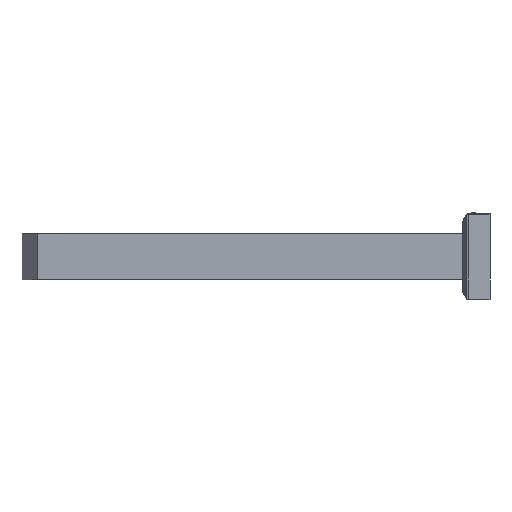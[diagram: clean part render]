
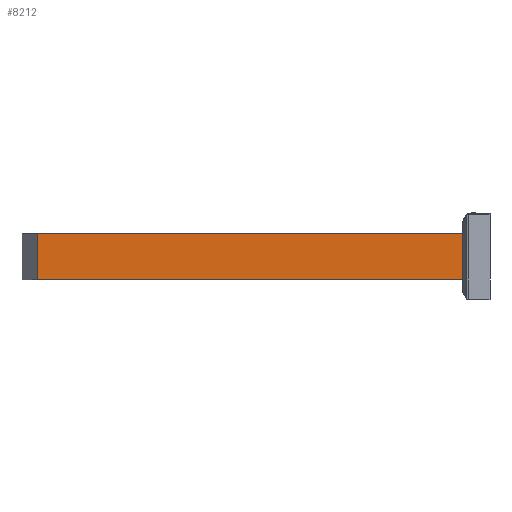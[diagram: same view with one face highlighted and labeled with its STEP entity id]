
A CAD part, left-side view. The second image highlights one B-rep face of the part: STEP entity #8212.
In plain terms, the highlighted planar face has unit normal (-1, 0, 0).
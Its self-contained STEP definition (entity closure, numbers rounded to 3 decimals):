
#438 = VECTOR ( 'NONE', #11556, 1000. ) ;
#573 = EDGE_CURVE ( 'NONE', #10775, #23239, #12261, .T. ) ;
#3342 = CARTESIAN_POINT ( 'NONE',  ( -25., 963.826, 50. ) ) ;
#3413 = ORIENTED_EDGE ( 'NONE', *, *, #21368, .F. ) ;
#4322 = VECTOR ( 'NONE', #32273, 1000. ) ;
#8212 = ADVANCED_FACE ( 'NONE', ( #17175 ), #17010, .T. ) ;
#8305 = EDGE_CURVE ( 'NONE', #10313, #22684, #30075, .T. ) ;
#9335 = EDGE_CURVE ( 'NONE', #22684, #10775, #19734, .T. ) ;
#9758 = CARTESIAN_POINT ( 'NONE',  ( -25., 0., -50. ) ) ;
#10088 = DIRECTION ( 'NONE',  ( 0., 0., 1. ) ) ;
#10313 = VERTEX_POINT ( 'NONE', #19616 ) ;
#10775 = VERTEX_POINT ( 'NONE', #3342 ) ;
#11333 = CARTESIAN_POINT ( 'NONE',  ( -25., 963.826, -50. ) ) ;
#11556 = DIRECTION ( 'NONE',  ( 0., 1., 0. ) ) ;
#12261 = LINE ( 'NONE', #29608, #4322 ) ;
#13309 = VECTOR ( 'NONE', #31218, 1000. ) ;
#13557 = VECTOR ( 'NONE', #10088, 1000. ) ;
#16546 = DIRECTION ( 'NONE',  ( 0., 0., 1. ) ) ;
#17010 = PLANE ( 'NONE',  #21447 ) ;
#17175 = FACE_OUTER_BOUND ( 'NONE', #18869, .T. ) ;
#18479 = LINE ( 'NONE', #28557, #13309 ) ;
#18869 = EDGE_LOOP ( 'NONE', ( #21329, #20568, #3413, #27494 ) ) ;
#19616 = CARTESIAN_POINT ( 'NONE',  ( -25., 0., -50. ) ) ;
#19734 = LINE ( 'NONE', #29982, #438 ) ;
#20568 = ORIENTED_EDGE ( 'NONE', *, *, #573, .T. ) ;
#21329 = ORIENTED_EDGE ( 'NONE', *, *, #9335, .T. ) ;
#21368 = EDGE_CURVE ( 'NONE', #10313, #23239, #18479, .T. ) ;
#21447 = AXIS2_PLACEMENT_3D ( 'NONE', #9758, #32407, #16546 ) ;
#22684 = VERTEX_POINT ( 'NONE', #32365 ) ;
#23239 = VERTEX_POINT ( 'NONE', #11333 ) ;
#27494 = ORIENTED_EDGE ( 'NONE', *, *, #8305, .T. ) ;
#28108 = CARTESIAN_POINT ( 'NONE',  ( -25., 0., -50. ) ) ;
#28557 = CARTESIAN_POINT ( 'NONE',  ( -25., 0., -50. ) ) ;
#29608 = CARTESIAN_POINT ( 'NONE',  ( -25., 963.826, -50. ) ) ;
#29982 = CARTESIAN_POINT ( 'NONE',  ( -25., 0., 50. ) ) ;
#30075 = LINE ( 'NONE', #28108, #13557 ) ;
#31218 = DIRECTION ( 'NONE',  ( 0., 1., 0. ) ) ;
#32273 = DIRECTION ( 'NONE',  ( 0., 0., -1. ) ) ;
#32365 = CARTESIAN_POINT ( 'NONE',  ( -25., 0., 50. ) ) ;
#32407 = DIRECTION ( 'NONE',  ( -1., 0., 0. ) ) ;
